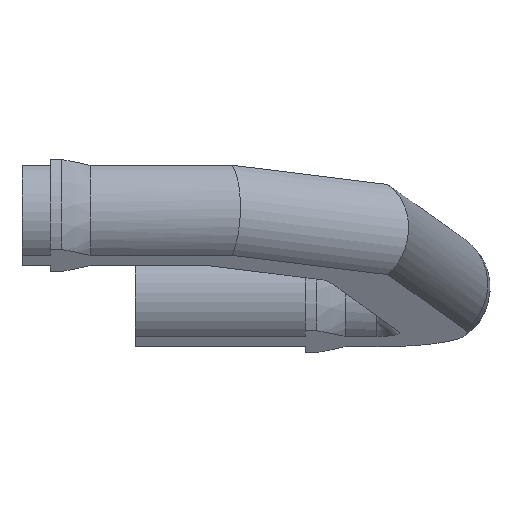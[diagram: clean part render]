
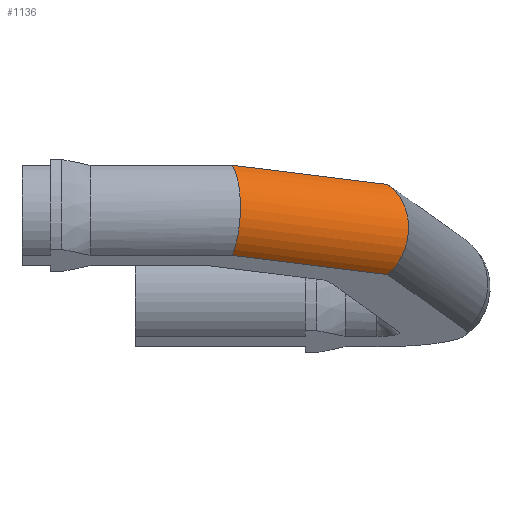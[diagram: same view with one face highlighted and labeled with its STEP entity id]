
A CAD part, front view. The second image highlights one B-rep face of the part: STEP entity #1136.
In plain terms, the highlighted cylindrical face has radius 2 mm (diameter 4 mm), a partial arc.
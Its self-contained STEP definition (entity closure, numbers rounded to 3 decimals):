
#8 = CARTESIAN_POINT ( 'NONE',  ( 14.979, -80.447, 15.337 ) ) ;
#17 = EDGE_LOOP ( 'NONE', ( #178, #71, #154, #562 ) ) ;
#71 = ORIENTED_EDGE ( 'NONE', *, *, #296, .F. ) ;
#73 = CARTESIAN_POINT ( 'NONE',  ( 8.839, -85.355, 16.096 ) ) ;
#75 = DIRECTION ( 'NONE',  ( 0.777, 0.622, -0.096 ) ) ;
#86 = EDGE_CURVE ( 'NONE', #559, #897, #952, .T. ) ;
#154 = ORIENTED_EDGE ( 'NONE', *, *, #1124, .F. ) ;
#156 = CARTESIAN_POINT ( 'NONE',  ( 8.42, -84.319, 15.052 ) ) ;
#172 = CARTESIAN_POINT ( 'NONE',  ( 8.42, -83.828, 18.232 ) ) ;
#177 = VECTOR ( 'NONE', #945, 1000. ) ;
#178 = ORIENTED_EDGE ( 'NONE', *, *, #86, .F. ) ;
#193 = CARTESIAN_POINT ( 'NONE',  ( 13.91, -79.439, 17.554 ) ) ;
#195 = EDGE_CURVE ( 'NONE', #246, #897, #948, .T. ) ;
#246 = VERTEX_POINT ( 'NONE', #172 ) ;
#296 = EDGE_CURVE ( 'NONE', #707, #559, #1142, .T. ) ;
#336 = CARTESIAN_POINT ( 'NONE',  ( 8.42, -83.828, 18.232 ) ) ;
#363 = DIRECTION ( 'NONE',  ( 0.777, 0.622, -0.096 ) ) ;
#376 = CARTESIAN_POINT ( 'NONE',  ( 14.979, -80.222, 16.791 ) ) ;
#450 = CARTESIAN_POINT ( 'NONE',  ( 13.91, -79.931, 14.373 ) ) ;
#452 = DIRECTION ( 'NONE',  ( -0.624, 0.781, 0. ) ) ;
#559 = VERTEX_POINT ( 'NONE', #895 ) ;
#562 = ORIENTED_EDGE ( 'NONE', *, *, #195, .T. ) ;
#594 = CARTESIAN_POINT ( 'NONE',  ( 8.839, -85.131, 17.55 ) ) ;
#608 = LINE ( 'NONE', #900, #633 ) ;
#633 = VECTOR ( 'NONE', #75, 1000. ) ;
#689 = CARTESIAN_POINT ( 'NONE',  ( 8.42, -84.319, 15.052 ) ) ;
#707 = VERTEX_POINT ( 'NONE', #193 ) ;
#782 = AXIS2_PLACEMENT_3D ( 'NONE', #785, #363, #452 ) ;
#785 = CARTESIAN_POINT ( 'NONE',  ( 6.556, -84.054, 16.639 ) ) ;
#806 = CYLINDRICAL_SURFACE ( 'NONE', #782, 2. ) ;
#895 = CARTESIAN_POINT ( 'NONE',  ( 13.91, -79.931, 14.373 ) ) ;
#897 = VERTEX_POINT ( 'NONE', #156 ) ;
#900 = CARTESIAN_POINT ( 'NONE',  ( 7.303, -84.721, 18.371 ) ) ;
#945 = DIRECTION ( 'NONE',  ( -0.777, -0.622, 0.096 ) ) ;
#948 =( BOUNDED_CURVE ( )  B_SPLINE_CURVE ( 3, ( #336, #594, #73, #689 ),
 .UNSPECIFIED., .F., .T. ) 
 B_SPLINE_CURVE_WITH_KNOTS ( ( 4, 4 ),
 ( 5.348, 7.218 ),
 .UNSPECIFIED. ) 
 CURVE ( )  GEOMETRIC_REPRESENTATION_ITEM ( )  RATIONAL_B_SPLINE_CURVE ( ( 1., 0.729, 0.729, 1. ) ) 
 REPRESENTATION_ITEM ( '' )  );
#952 = LINE ( 'NONE', #1032, #177 ) ;
#991 = CARTESIAN_POINT ( 'NONE',  ( 13.91, -79.439, 17.554 ) ) ;
#1032 = CARTESIAN_POINT ( 'NONE',  ( 7.303, -85.213, 15.19 ) ) ;
#1055 = FACE_OUTER_BOUND ( 'NONE', #17, .T. ) ;
#1124 = EDGE_CURVE ( 'NONE', #246, #707, #608, .T. ) ;
#1136 = ADVANCED_FACE ( 'NONE', ( #1055 ), #806, .T. ) ;
#1142 =( BOUNDED_CURVE ( )  B_SPLINE_CURVE ( 3, ( #991, #376, #8, #450 ),
 .UNSPECIFIED., .F., .T. ) 
 B_SPLINE_CURVE_WITH_KNOTS ( ( 4, 4 ),
 ( 5.348, 7.218 ),
 .UNSPECIFIED. ) 
 CURVE ( )  GEOMETRIC_REPRESENTATION_ITEM ( )  RATIONAL_B_SPLINE_CURVE ( ( 1., 0.729, 0.729, 1. ) ) 
 REPRESENTATION_ITEM ( '' )  );
